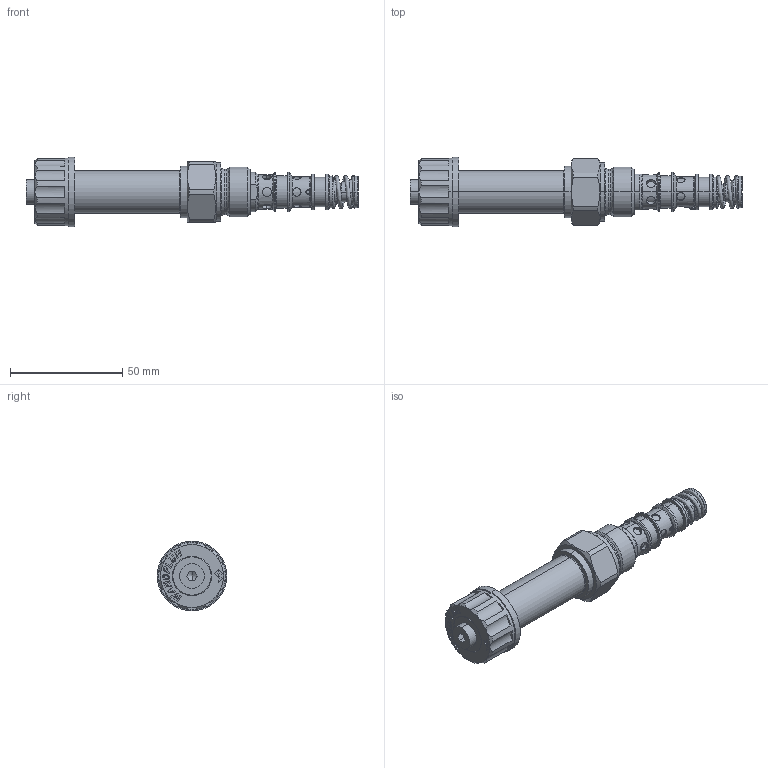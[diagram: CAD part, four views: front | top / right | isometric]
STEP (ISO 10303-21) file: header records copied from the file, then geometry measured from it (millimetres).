
FILE_DESCRIPTION (( 'STEP AP214' ), '1' );
FILE_NAME ('QSPPU10-X5-HB0.STEP', '2020-03-31T12:25:11', ( '' ), ( '' ), 'SwSTEP 2.0', 'SolidWorks 2018', '' );
FILE_SCHEMA (( 'AUTOMOTIVE_DESIGN' ));
Length unit declared in the file: millimetre
Products named in the file (1): QSPPU10-X5-HB0
Bounding box: 147.7 x 31 x 31 mm (x, y, z)
Volume: 47801.8 mm3; surface area: 13165.1 mm2
Topology: 1 solids, 1 shells, 429 faces, 1062 edges, 668 vertices
Faces by surface type: plane 181, cylinder 125, cone 66, torus 35, bspline 22
Entity records: 22009 total; most frequent: CARTESIAN_POINT 7365, ORIENTED_EDGE 2112, DIRECTION 1976, EDGE_CURVE 1056, AXIS2_PLACEMENT_3D 728, VERTEX_POINT 668, LINE 520, VECTOR 520
